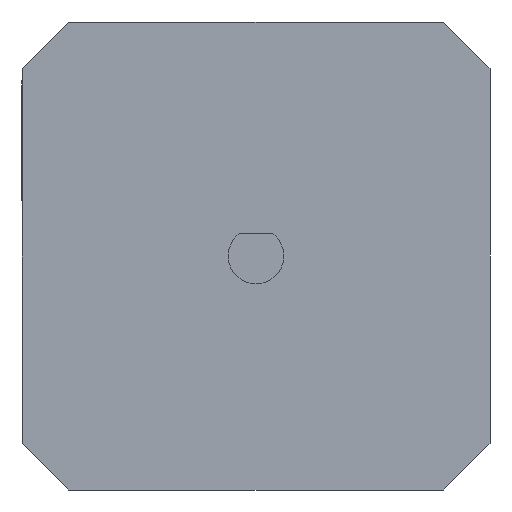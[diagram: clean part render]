
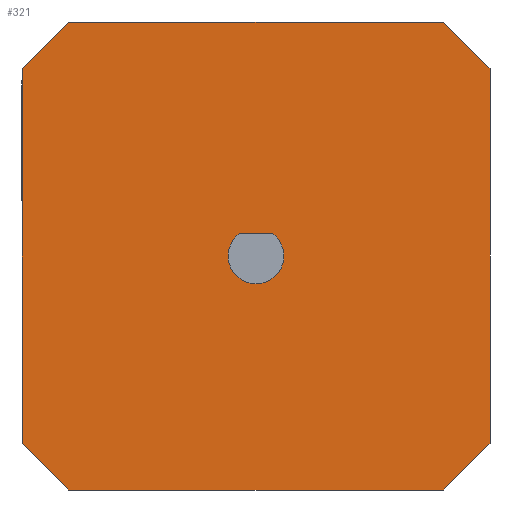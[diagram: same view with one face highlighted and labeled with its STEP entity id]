
A CAD part, front view. The second image highlights one B-rep face of the part: STEP entity #321.
In plain terms, the highlighted planar face has unit normal (0, -1, 0).
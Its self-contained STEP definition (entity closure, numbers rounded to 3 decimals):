
#21 = DIRECTION ( 'NONE',  ( 0., 0., -1. ) ) ;
#68 = EDGE_LOOP ( 'NONE', ( #216, #974 ) ) ;
#111 = ORIENTED_EDGE ( 'NONE', *, *, #1051, .T. ) ;
#119 = VERTEX_POINT ( 'NONE', #466 ) ;
#120 = DIRECTION ( 'NONE',  ( 1., 0., 0. ) ) ;
#124 = ORIENTED_EDGE ( 'NONE', *, *, #142, .T. ) ;
#135 = LINE ( 'NONE', #551, #686 ) ;
#142 = EDGE_CURVE ( 'NONE', #704, #502, #1348, .T. ) ;
#155 = VECTOR ( 'NONE', #1147, 1000. ) ;
#164 = EDGE_CURVE ( 'NONE', #1355, #1469, #1306, .T. ) ;
#168 = CARTESIAN_POINT ( 'NONE',  ( 0., -50., 0. ) ) ;
#183 = DIRECTION ( 'NONE',  ( 0., -1., 0. ) ) ;
#197 = DIRECTION ( 'NONE',  ( 0., -1., 0. ) ) ;
#203 = CARTESIAN_POINT ( 'NONE',  ( 4.2, -50., -42. ) ) ;
#204 = VECTOR ( 'NONE', #1356, 1000. ) ;
#216 = ORIENTED_EDGE ( 'NONE', *, *, #1143, .F. ) ;
#283 = DIRECTION ( 'NONE',  ( -0.707, 0., 0.707 ) ) ;
#321 = ADVANCED_FACE ( 'NONE', ( #1048, #1308 ), #1314, .T. ) ;
#327 = EDGE_CURVE ( 'NONE', #119, #826, #706, .T. ) ;
#338 = VERTEX_POINT ( 'NONE', #552 ) ;
#352 = CARTESIAN_POINT ( 'NONE',  ( 0., -50., 0. ) ) ;
#381 = VECTOR ( 'NONE', #120, 1000. ) ;
#403 = VERTEX_POINT ( 'NONE', #870 ) ;
#406 = EDGE_LOOP ( 'NONE', ( #111, #1169, #1340, #494, #1334, #568, #124, #855 ) ) ;
#427 = CARTESIAN_POINT ( 'NONE',  ( 0., -50., 0. ) ) ;
#431 = CARTESIAN_POINT ( 'NONE',  ( 42., -50., 0. ) ) ;
#466 = CARTESIAN_POINT ( 'NONE',  ( 42., -50., -4.2 ) ) ;
#468 = LINE ( 'NONE', #1090, #506 ) ;
#494 = ORIENTED_EDGE ( 'NONE', *, *, #164, .F. ) ;
#502 = VERTEX_POINT ( 'NONE', #203 ) ;
#506 = VECTOR ( 'NONE', #283, 1000. ) ;
#515 = CARTESIAN_POINT ( 'NONE',  ( 22.5, -50., -19. ) ) ;
#551 = CARTESIAN_POINT ( 'NONE',  ( 37.8, -50., -42. ) ) ;
#552 = CARTESIAN_POINT ( 'NONE',  ( 0., -50., -4.2 ) ) ;
#568 = ORIENTED_EDGE ( 'NONE', *, *, #1231, .F. ) ;
#572 = DIRECTION ( 'NONE',  ( 1., 0., 0. ) ) ;
#621 = CARTESIAN_POINT ( 'NONE',  ( 4.2, -50., -42. ) ) ;
#648 = CARTESIAN_POINT ( 'NONE',  ( 0., -50., -4.2 ) ) ;
#663 = VECTOR ( 'NONE', #1461, 1000. ) ;
#686 = VECTOR ( 'NONE', #1354, 1000. ) ;
#704 = VERTEX_POINT ( 'NONE', #1175 ) ;
#706 = LINE ( 'NONE', #431, #204 ) ;
#712 = AXIS2_PLACEMENT_3D ( 'NONE', #895, #197, #998 ) ;
#714 = EDGE_CURVE ( 'NONE', #403, #502, #1275, .T. ) ;
#724 = LINE ( 'NONE', #648, #996 ) ;
#739 = CARTESIAN_POINT ( 'NONE',  ( 42., -50., -37.8 ) ) ;
#801 = EDGE_CURVE ( 'NONE', #1243, #1397, #860, .T. ) ;
#819 = EDGE_CURVE ( 'NONE', #119, #1469, #468, .T. ) ;
#826 = VERTEX_POINT ( 'NONE', #739 ) ;
#855 = ORIENTED_EDGE ( 'NONE', *, *, #714, .F. ) ;
#860 = LINE ( 'NONE', #1259, #1432 ) ;
#870 = CARTESIAN_POINT ( 'NONE',  ( 37.8, -50., -42. ) ) ;
#893 = CARTESIAN_POINT ( 'NONE',  ( 0., -50., -42. ) ) ;
#895 = CARTESIAN_POINT ( 'NONE',  ( 21., -50., -21. ) ) ;
#974 = ORIENTED_EDGE ( 'NONE', *, *, #801, .T. ) ;
#996 = VECTOR ( 'NONE', #1330, 1000. ) ;
#998 = DIRECTION ( 'NONE',  ( 0., 0., -1. ) ) ;
#1048 = FACE_OUTER_BOUND ( 'NONE', #406, .T. ) ;
#1051 = EDGE_CURVE ( 'NONE', #403, #826, #135, .T. ) ;
#1072 = LINE ( 'NONE', #427, #1381 ) ;
#1090 = CARTESIAN_POINT ( 'NONE',  ( 37.8, -50., 0. ) ) ;
#1143 = EDGE_CURVE ( 'NONE', #1243, #1397, #1224, .T. ) ;
#1147 = DIRECTION ( 'NONE',  ( 0.707, 0., -0.707 ) ) ;
#1169 = ORIENTED_EDGE ( 'NONE', *, *, #327, .F. ) ;
#1175 = CARTESIAN_POINT ( 'NONE',  ( 0., -50., -37.8 ) ) ;
#1224 = CIRCLE ( 'NONE', #712, 2.5 ) ;
#1231 = EDGE_CURVE ( 'NONE', #704, #338, #1072, .T. ) ;
#1243 = VERTEX_POINT ( 'NONE', #1476 ) ;
#1259 = CARTESIAN_POINT ( 'NONE',  ( 19.5, -50., -19. ) ) ;
#1275 = LINE ( 'NONE', #893, #663 ) ;
#1305 = CARTESIAN_POINT ( 'NONE',  ( 4.2, -50., 0. ) ) ;
#1306 = LINE ( 'NONE', #352, #381 ) ;
#1308 = FACE_BOUND ( 'NONE', #68, .T. ) ;
#1314 = PLANE ( 'NONE',  #1335 ) ;
#1330 = DIRECTION ( 'NONE',  ( -0.707, 0., -0.707 ) ) ;
#1334 = ORIENTED_EDGE ( 'NONE', *, *, #1462, .T. ) ;
#1335 = AXIS2_PLACEMENT_3D ( 'NONE', #168, #183, #21 ) ;
#1340 = ORIENTED_EDGE ( 'NONE', *, *, #819, .T. ) ;
#1348 = LINE ( 'NONE', #621, #155 ) ;
#1354 = DIRECTION ( 'NONE',  ( 0.707, 0., 0.707 ) ) ;
#1355 = VERTEX_POINT ( 'NONE', #1305 ) ;
#1356 = DIRECTION ( 'NONE',  ( 0., 0., -1. ) ) ;
#1357 = DIRECTION ( 'NONE',  ( 0., 0., 1. ) ) ;
#1381 = VECTOR ( 'NONE', #1357, 1000. ) ;
#1397 = VERTEX_POINT ( 'NONE', #515 ) ;
#1432 = VECTOR ( 'NONE', #572, 1000. ) ;
#1458 = CARTESIAN_POINT ( 'NONE',  ( 37.8, -50., 0. ) ) ;
#1461 = DIRECTION ( 'NONE',  ( -1., 0., 0. ) ) ;
#1462 = EDGE_CURVE ( 'NONE', #1355, #338, #724, .T. ) ;
#1469 = VERTEX_POINT ( 'NONE', #1458 ) ;
#1476 = CARTESIAN_POINT ( 'NONE',  ( 19.5, -50., -19. ) ) ;
